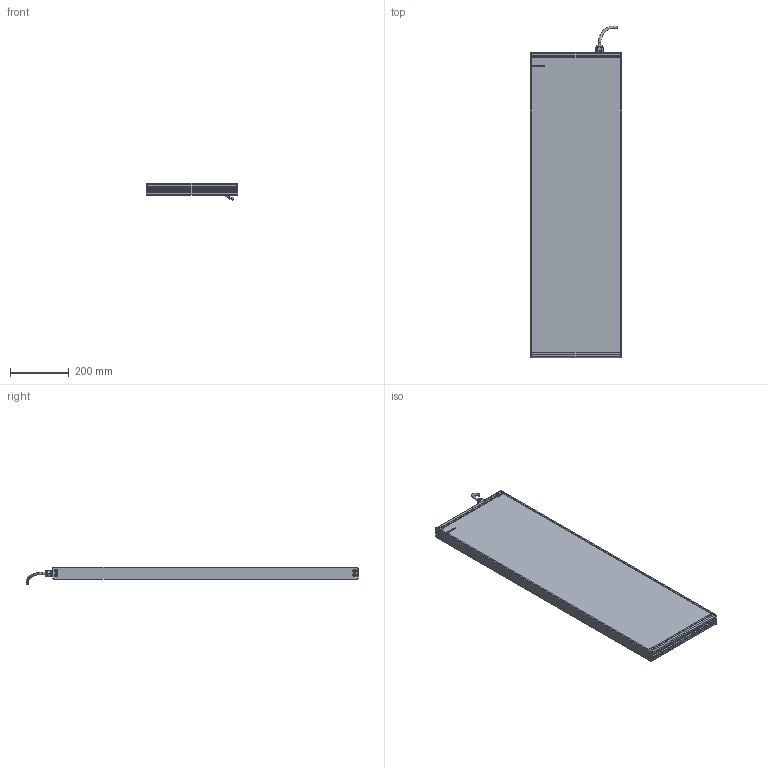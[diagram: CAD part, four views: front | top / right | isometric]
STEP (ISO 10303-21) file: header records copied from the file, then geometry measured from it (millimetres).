
FILE_DESCRIPTION (( 'STEP AP214' ), '1' );
FILE_NAME ('EFFI-BL-300T-1000-1M12P.STEP', '2021-06-28T09:53:32', ( '' ), ( '' ), 'SwSTEP 2.0', 'SolidWorks 2021', '' );
FILE_SCHEMA (( 'AUTOMOTIVE_DESIGN' ));
Length unit declared in the file: millimetre
Products named in the file (7): profile modif_lg 99.5 mm; Pièce2^EFFI-BL-XXXT-YYY + M12P; EFFI-BL-300T-1000-1M12P; bord fin modif_lg 436.5 mm; 003776; M12 power
Assembly tree (14 placements, depth 2):
  EFFI-BL-300T-1000-1M12P
    profile modif_lg 99.5 mm
    bord fin modif_lg 436.5 mm  x2
    Pièce2^EFFI-BL-XXXT-YYY + M12P
    profile modif_lg 99.5 mm
    M12 power
    003776  x8
Bounding box: 310 x 1126.45 x 58.14 mm (x, y, z)
Volume: 11127459 mm3; surface area: 974259.4 mm2
Topology: 13 solids, 16 shells, 569 faces, 1446 edges, 927 vertices
Faces by surface type: plane 327, bspline 125, cylinder 95, cone 18, torus 4
Entity records: 15286 total; most frequent: CARTESIAN_POINT 5076, ORIENTED_EDGE 2024, DIRECTION 1720, EDGE_CURVE 1014, LINE 756, VECTOR 756, VERTEX_POINT 670, AXIS2_PLACEMENT_3D 482
